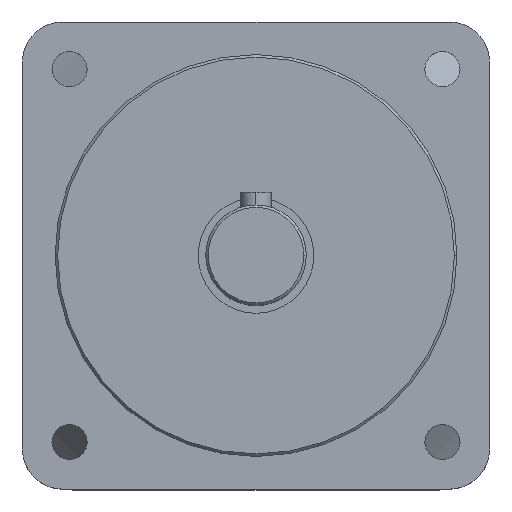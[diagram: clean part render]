
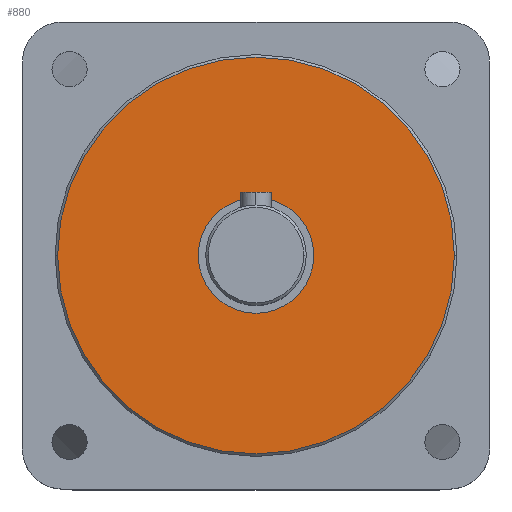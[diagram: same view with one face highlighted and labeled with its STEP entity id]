
A CAD part, top view. The second image highlights one B-rep face of the part: STEP entity #880.
In plain terms, the highlighted planar face has unit normal (0, 0, 1).
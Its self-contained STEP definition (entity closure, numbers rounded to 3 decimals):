
#580 = EDGE_CURVE ( 'NONE', #581, #584, #2080, .T. ) ;
#581 = VERTEX_POINT ( 'NONE', #2075 ) ;
#584 = VERTEX_POINT ( 'NONE', #2071 ) ;
#827 = EDGE_LOOP ( 'NONE', ( #882, #884 ) ) ;
#877 = ORIENTED_EDGE ( 'NONE', *, *, #878, .T. ) ;
#878 = EDGE_CURVE ( 'NONE', #584, #581, #2575, .T. ) ;
#879 = ORIENTED_EDGE ( 'NONE', *, *, #580, .T. ) ;
#880 = ADVANCED_FACE ( 'NONE', ( #2570, #2569 ), #2568, .T. ) ;
#881 = EDGE_LOOP ( 'NONE', ( #877, #879 ) ) ;
#882 = ORIENTED_EDGE ( 'NONE', *, *, #883, .F. ) ;
#883 = EDGE_CURVE ( 'NONE', #950, #947, #2566, .T. ) ;
#884 = ORIENTED_EDGE ( 'NONE', *, *, #949, .F. ) ;
#947 = VERTEX_POINT ( 'NONE', #2814 ) ;
#949 = EDGE_CURVE ( 'NONE', #947, #950, #2778, .T. ) ;
#950 = VERTEX_POINT ( 'NONE', #2810 ) ;
#2071 = CARTESIAN_POINT ( 'NONE',  ( -39.5, 0., 24. ) ) ;
#2075 = CARTESIAN_POINT ( 'NONE',  ( 39.5, 0., 24. ) ) ;
#2076 = DIRECTION ( 'NONE',  ( 1., 0., 0. ) ) ;
#2077 = DIRECTION ( 'NONE',  ( 0., 0., 1. ) ) ;
#2078 = CARTESIAN_POINT ( 'NONE',  ( 0., 0., 24. ) ) ;
#2079 = AXIS2_PLACEMENT_3D ( 'NONE', #2078, #2077, #2076 ) ;
#2080 = CIRCLE ( 'NONE', #2079, 39.5 ) ;
#2559 = DIRECTION ( 'NONE',  ( 1., 0., 0. ) ) ;
#2560 = DIRECTION ( 'NONE',  ( 0., 0., 1. ) ) ;
#2561 = CARTESIAN_POINT ( 'NONE',  ( 0., 0., 24. ) ) ;
#2562 = AXIS2_PLACEMENT_3D ( 'NONE', #2561, #2560, #2559 ) ;
#2563 = DIRECTION ( 'NONE',  ( 1., 0., 0. ) ) ;
#2564 = DIRECTION ( 'NONE',  ( 0., 0., 1. ) ) ;
#2565 = CARTESIAN_POINT ( 'NONE',  ( 0., 0., 24. ) ) ;
#2566 = CIRCLE ( 'NONE', #2562, 11.5 ) ;
#2567 = AXIS2_PLACEMENT_3D ( 'NONE', #2565, #2564, #2563 ) ;
#2568 = PLANE ( 'NONE',  #2567 ) ;
#2569 = FACE_BOUND ( 'NONE', #827, .T. ) ;
#2570 = FACE_OUTER_BOUND ( 'NONE', #881, .T. ) ;
#2571 = DIRECTION ( 'NONE',  ( 1., 0., 0. ) ) ;
#2572 = DIRECTION ( 'NONE',  ( 0., 0., 1. ) ) ;
#2573 = CARTESIAN_POINT ( 'NONE',  ( 0., 0., 24. ) ) ;
#2574 = AXIS2_PLACEMENT_3D ( 'NONE', #2573, #2572, #2571 ) ;
#2575 = CIRCLE ( 'NONE', #2574, 39.5 ) ;
#2778 = CIRCLE ( 'NONE', #2813, 11.5 ) ;
#2810 = CARTESIAN_POINT ( 'NONE',  ( -11.5, 0., 24. ) ) ;
#2813 = AXIS2_PLACEMENT_3D ( 'NONE', #2815, #2818, #2817 ) ;
#2814 = CARTESIAN_POINT ( 'NONE',  ( 11.5, 0., 24. ) ) ;
#2815 = CARTESIAN_POINT ( 'NONE',  ( 0., 0., 24. ) ) ;
#2817 = DIRECTION ( 'NONE',  ( 1., 0., 0. ) ) ;
#2818 = DIRECTION ( 'NONE',  ( 0., 0., 1. ) ) ;
